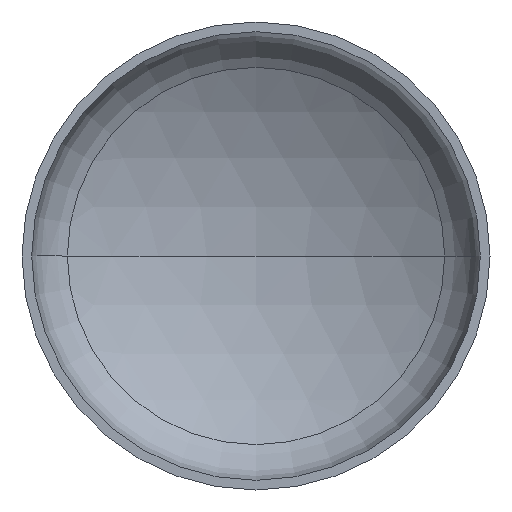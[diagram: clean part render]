
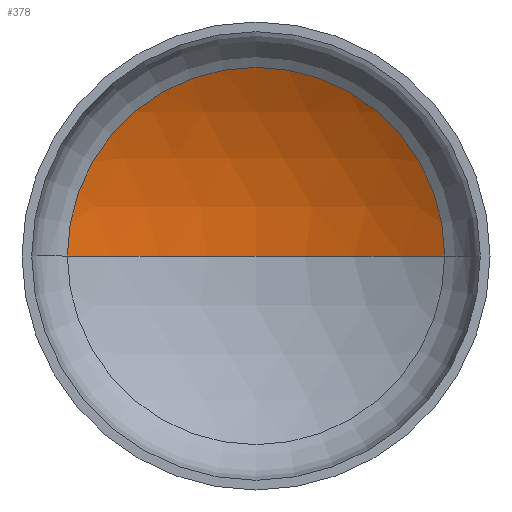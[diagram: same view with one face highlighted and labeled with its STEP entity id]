
A CAD part, front view. The second image highlights one B-rep face of the part: STEP entity #378.
In plain terms, the highlighted spherical face has radius 2240 mm.
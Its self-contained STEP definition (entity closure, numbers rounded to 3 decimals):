
#1 = AXIS2_PLACEMENT_3D ( 'NONE', #324, #327, #184 ) ;
#2 = AXIS2_PLACEMENT_3D ( 'NONE', #411, #264, #265 ) ;
#3 = AXIS2_PLACEMENT_3D ( 'NONE', #83, #171, #257 ) ;
#11 = EDGE_LOOP ( 'NONE', ( #13, #122, #296 ) ) ;
#13 = ORIENTED_EDGE ( 'NONE', *, *, #346, .F. ) ;
#19 = VERTEX_POINT ( 'NONE', #275 ) ;
#23 = CIRCLE ( 'NONE', #3, 2240. ) ;
#69 = VERTEX_POINT ( 'NONE', #278 ) ;
#83 = CARTESIAN_POINT ( 'NONE',  ( 0., -1443.444, 0. ) ) ;
#109 = CARTESIAN_POINT ( 'NONE',  ( 0., -1443.444, 0. ) ) ;
#122 = ORIENTED_EDGE ( 'NONE', *, *, #362, .T. ) ;
#151 = VERTEX_POINT ( 'NONE', #204 ) ;
#171 = DIRECTION ( 'NONE',  ( 0., 0., 1. ) ) ;
#184 = DIRECTION ( 'NONE',  ( -1., 0., 0. ) ) ;
#204 = CARTESIAN_POINT ( 'NONE',  ( 0., 796.556, 0. ) ) ;
#211 = DIRECTION ( 'NONE',  ( 0., 0., -1. ) ) ;
#228 = CIRCLE ( 'NONE', #1, 2240. ) ;
#234 = FACE_OUTER_BOUND ( 'NONE', #11, .T. ) ;
#257 = DIRECTION ( 'NONE',  ( 1., 0., 0. ) ) ;
#264 = DIRECTION ( 'NONE',  ( 0., -1., 0. ) ) ;
#265 = DIRECTION ( 'NONE',  ( 1., 0., 0. ) ) ;
#275 = CARTESIAN_POINT ( 'NONE',  ( 1128.663, 491.426, 0. ) ) ;
#278 = CARTESIAN_POINT ( 'NONE',  ( -1128.663, 491.426, 0. ) ) ;
#296 = ORIENTED_EDGE ( 'NONE', *, *, #365, .T. ) ;
#324 = CARTESIAN_POINT ( 'NONE',  ( 0., -1443.444, 0. ) ) ;
#327 = DIRECTION ( 'NONE',  ( 0., 0., -1. ) ) ;
#346 = EDGE_CURVE ( 'NONE', #151, #69, #23, .T. ) ;
#355 = CIRCLE ( 'NONE', #2, 1128.663 ) ;
#362 = EDGE_CURVE ( 'NONE', #151, #19, #228, .T. ) ;
#365 = EDGE_CURVE ( 'NONE', #19, #69, #355, .T. ) ;
#372 = DIRECTION ( 'NONE',  ( -1., 0., 0. ) ) ;
#378 = ADVANCED_FACE ( 'NONE', ( #234 ), #403, .F. ) ;
#403 = SPHERICAL_SURFACE ( 'NONE', #408, 2240. ) ;
#408 = AXIS2_PLACEMENT_3D ( 'NONE', #109, #211, #372 ) ;
#411 = CARTESIAN_POINT ( 'NONE',  ( 0., 491.426, 0. ) ) ;
